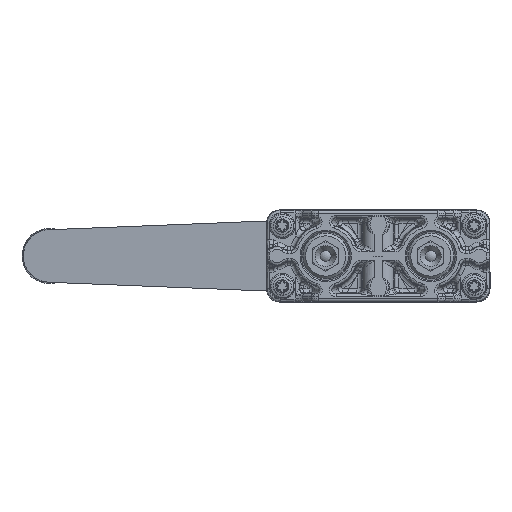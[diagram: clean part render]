
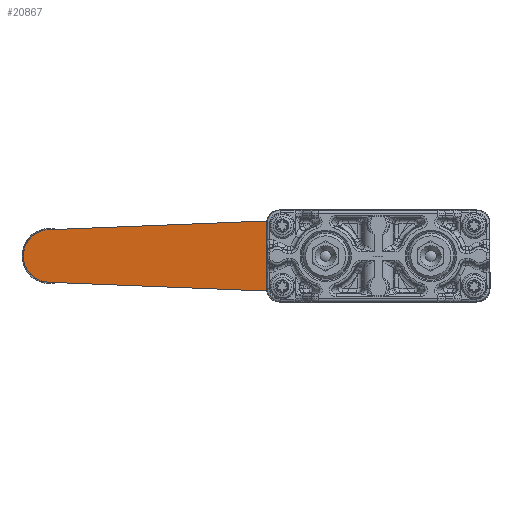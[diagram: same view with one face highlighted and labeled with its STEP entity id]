
A CAD part, left-side view. The second image highlights one B-rep face of the part: STEP entity #20867.
In plain terms, the highlighted planar face has unit normal (-0.997, 0.073, 0) as drawn and (0.997, 0.073, 0) by its records, which use the part's own axes.
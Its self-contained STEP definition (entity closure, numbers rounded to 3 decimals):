
#502=ELLIPSE('',#22365,15.04,15.);
#503=ELLIPSE('',#22366,10.027,10.);
#504=ELLIPSE('',#22367,12.784,12.75);
#2013=LINE('',#29903,#2922);
#2014=LINE('',#29907,#2923);
#2922=VECTOR('',#24579,1000.);
#2923=VECTOR('',#24582,1000.);
#4323=ORIENTED_EDGE('',*,*,#10278,.T.);
#4324=ORIENTED_EDGE('',*,*,#10279,.T.);
#4325=ORIENTED_EDGE('',*,*,#10280,.T.);
#4326=ORIENTED_EDGE('',*,*,#10281,.T.);
#4327=ORIENTED_EDGE('',*,*,#10282,.F.);
#10278=EDGE_CURVE('',#13280,#13281,#502,.F.);
#10279=EDGE_CURVE('',#13281,#13282,#2013,.T.);
#10280=EDGE_CURVE('',#13282,#13283,#503,.F.);
#10281=EDGE_CURVE('',#13283,#13280,#2014,.T.);
#10282=EDGE_CURVE('',#13284,#13284,#504,.F.);
#13280=VERTEX_POINT('',#29901);
#13281=VERTEX_POINT('',#29902);
#13282=VERTEX_POINT('',#29904);
#13283=VERTEX_POINT('',#29906);
#13284=VERTEX_POINT('',#29909);
#16067=EDGE_LOOP('',(#4323,#4324,#4325,#4326));
#16068=EDGE_LOOP('',(#4327));
#17652=FACE_BOUND('',#16067,.T.);
#17653=FACE_BOUND('',#16068,.T.);
#19177=PLANE('',#22364);
#20867=ADVANCED_FACE('',(#17652,#17653),#19177,.F.);
#22364=AXIS2_PLACEMENT_3D('',#29899,#24575,#24576);
#22365=AXIS2_PLACEMENT_3D('',#29900,#24577,#24578);
#22366=AXIS2_PLACEMENT_3D('',#29905,#24580,#24581);
#22367=AXIS2_PLACEMENT_3D('',#29908,#24583,#24584);
#24575=DIRECTION('',(-0.997,-0.073,0.));
#24576=DIRECTION('',(0.073,-0.997,0.));
#24577=DIRECTION('',(-0.997,-0.073,0.));
#24578=DIRECTION('',(-0.073,0.997,0.));
#24579=DIRECTION('',(-0.073,0.997,0.04));
#24580=DIRECTION('',(-0.997,-0.073,0.));
#24581=DIRECTION('',(-0.073,0.997,0.));
#24582=DIRECTION('',(0.073,-0.997,0.04));
#24583=DIRECTION('',(-0.997,-0.073,0.));
#24584=DIRECTION('',(-0.073,0.997,0.));
#29899=CARTESIAN_POINT('',(13.5,-15.6,57.9));
#29900=CARTESIAN_POINT('',(12.4,-0.6,0.));
#29901=CARTESIAN_POINT('',(12.356,0.,14.988));
#29902=CARTESIAN_POINT('',(12.356,0.,-14.988));
#29903=CARTESIAN_POINT('',(3.259,124.05,-10.022));
#29904=CARTESIAN_POINT('',(3.204,124.8,-9.992));
#29905=CARTESIAN_POINT('',(3.233,124.4,0.));
#29906=CARTESIAN_POINT('',(3.204,124.8,9.992));
#29907=CARTESIAN_POINT('',(12.362,-0.083,14.991));
#29908=CARTESIAN_POINT('',(12.4,-0.6,0.));
#29909=CARTESIAN_POINT('',(11.465,12.15,0.));
